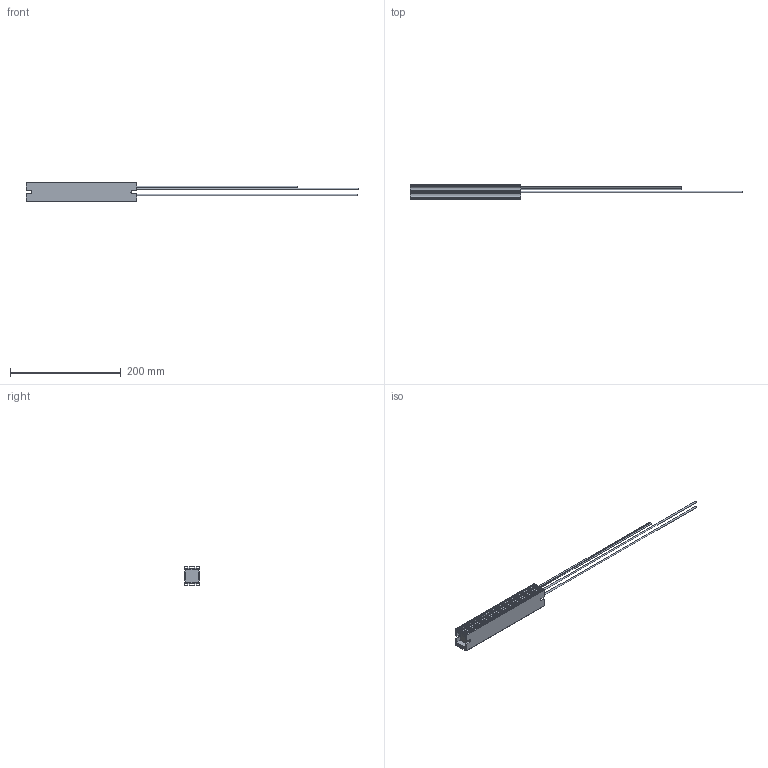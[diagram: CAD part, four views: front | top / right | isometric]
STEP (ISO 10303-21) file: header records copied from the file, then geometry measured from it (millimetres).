
FILE_DESCRIPTION(/* description */ (''),/* implementation_level */ '2;1');
FILE_NAME(/* name */ 'C:\_Vault\Dati\CATALOGO\RFZC\3D\RFZTC200.stp',/* time_stamp */ '2014-03-27T17:46:09+01:00',/* author */ ('stefano'),/* organization */ (''),/* preprocessor_version */ 'ST-DEVELOPER v15.2',/* originating_system */ 'Autodesk Inventor 2014',/* authorisation */ '');
FILE_SCHEMA (('AUTOMOTIVE_DESIGN { 1 0 10303 214 3 1 1 }'));
Length unit declared in the file: millimetre
Products named in the file (1): RFZTC200
Bounding box: 600 x 27 x 36 mm (x, y, z)
Volume: 167849.1 mm3; surface area: 56098.3 mm2
Topology: 1 solids, 1 shells, 98 faces, 268 edges, 176 vertices
Faces by surface type: plane 72, cylinder 26
Full cylindrical faces by diameter (mm): 2 x2, 3 x2
Entity records: 3215 total; most frequent: CARTESIAN_POINT 539, ORIENTED_EDGE 528, DIRECTION 522, EDGE_CURVE 264, LINE 204, VECTOR 204, VERTEX_POINT 176, AXIS2_PLACEMENT_3D 159
